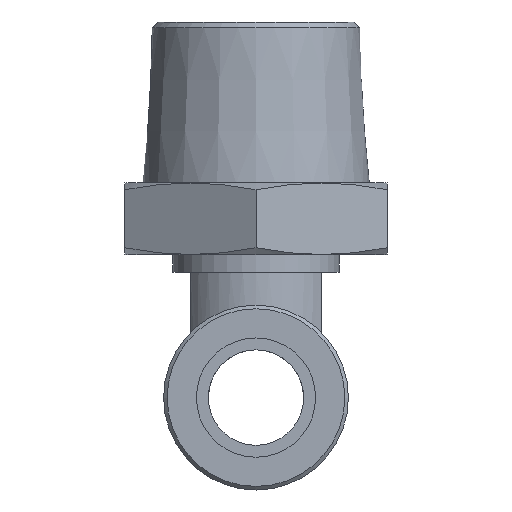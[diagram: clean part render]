
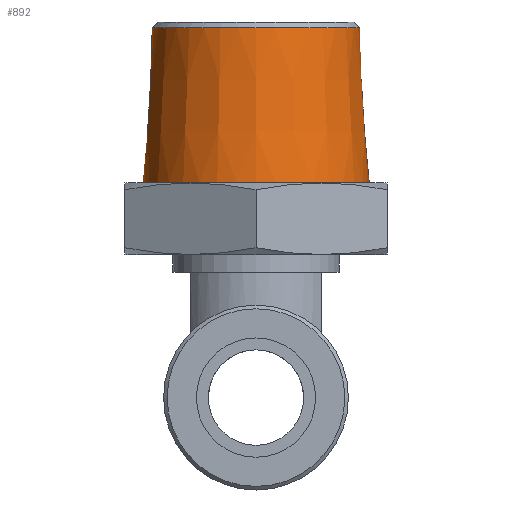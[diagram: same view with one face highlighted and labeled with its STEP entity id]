
A CAD part, front view. The second image highlights one B-rep face of the part: STEP entity #892.
In plain terms, the highlighted conical face has half-angle 3.5 degrees and reference radius 9.087 mm.
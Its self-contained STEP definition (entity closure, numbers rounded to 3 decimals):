
#82=CONICAL_SURFACE('',#985,9.087,0.061);
#101=FACE_OUTER_BOUND('',#165,.T.);
#165=EDGE_LOOP('',(#616,#617,#618,#619,#620));
#247=LINE('',#1433,#289);
#289=VECTOR('',#1130,9.087);
#331=CIRCLE('',#983,8.705);
#332=CIRCLE('',#984,8.705);
#333=CIRCLE('',#986,9.5);
#396=VERTEX_POINT('',#1426);
#397=VERTEX_POINT('',#1428);
#398=VERTEX_POINT('',#1432);
#479=EDGE_CURVE('',#396,#397,#331,.T.);
#480=EDGE_CURVE('',#397,#396,#332,.T.);
#481=EDGE_CURVE('',#397,#398,#247,.T.);
#482=EDGE_CURVE('',#398,#398,#333,.T.);
#616=ORIENTED_EDGE('',*,*,#479,.F.);
#617=ORIENTED_EDGE('',*,*,#480,.F.);
#618=ORIENTED_EDGE('',*,*,#481,.T.);
#619=ORIENTED_EDGE('',*,*,#482,.F.);
#620=ORIENTED_EDGE('',*,*,#481,.F.);
#892=ADVANCED_FACE('',(#101),#82,.T.);
#983=AXIS2_PLACEMENT_3D('',#1429,#1124,#1125);
#984=AXIS2_PLACEMENT_3D('',#1430,#1126,#1127);
#985=AXIS2_PLACEMENT_3D('',#1431,#1128,#1129);
#986=AXIS2_PLACEMENT_3D('',#1434,#1131,#1132);
#1124=DIRECTION('center_axis',(0.,0.,1.));
#1125=DIRECTION('ref_axis',(0.,-1.,0.));
#1126=DIRECTION('center_axis',(0.,0.,1.));
#1127=DIRECTION('ref_axis',(0.,-1.,0.));
#1128=DIRECTION('center_axis',(0.,0.,-1.));
#1129=DIRECTION('ref_axis',(0.,1.,0.));
#1130=DIRECTION('',(0.,-0.061,-0.998));
#1131=DIRECTION('center_axis',(0.,0.,-1.));
#1132=DIRECTION('ref_axis',(0.,1.,0.));
#1426=CARTESIAN_POINT('',(0.,8.705,31.001));
#1428=CARTESIAN_POINT('',(0.,-8.705,31.001));
#1429=CARTESIAN_POINT('Origin',(0.,0.,31.001));
#1430=CARTESIAN_POINT('Origin',(0.,0.,31.001));
#1431=CARTESIAN_POINT('Origin',(0.,0.,24.75));
#1432=CARTESIAN_POINT('',(0.,-9.5,18.));
#1433=CARTESIAN_POINT('',(0.,-9.087,24.75));
#1434=CARTESIAN_POINT('Origin',(0.,0.,18.));
